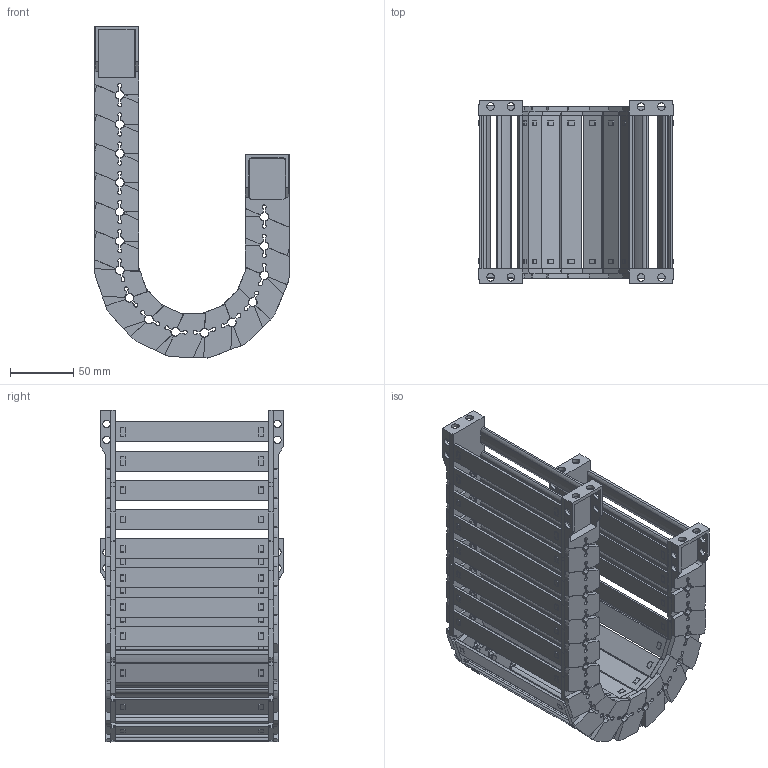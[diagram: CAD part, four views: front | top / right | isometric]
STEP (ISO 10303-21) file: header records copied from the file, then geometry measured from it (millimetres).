
FILE_DESCRIPTION(/* description */ (''),/* implementation_level */ '2;1');
FILE_NAME(/* name */ 'JY28-120-R55.stp',/* time_stamp */ '2026-06-03T16:13:45+08:00',/* author */ (''),/* organization */ (''),/* preprocessor_version */ 'ST-DEVELOPER v19.4',/* originating_system */ 'SIEMENS PLM Software NX2306.5001',/* authorisation */ '');
FILE_SCHEMA (('AP203_CONFIGURATION_CONTROLLED_3D_DESIGN_OF_MECHANICAL_PARTS_AND_ASSEMBLIES_MIM_LF { 1 0 10303 403 2 1 2}'));
Products named in the file (1): 简化图纸_objects
Bounding box: 153.11 x 144.5 x 261.45 mm (x, y, z)
Volume: 425531.9 mm3; surface area: 289754 mm2
Topology: 18 solids, 18 shells, 3920 faces, 10964 edges, 7130 vertices
Faces by surface type: plane 2177, cone 940, cylinder 741, bspline 60, torus 2
Full cylindrical faces by diameter (mm): 6 x24
Entity records: 135289 total; most frequent: CARTESIAN_POINT 33855, ORIENTED_EDGE 21836, DIRECTION 20876, EDGE_CURVE 10918, AXIS2_PLACEMENT_3D 7349, VERTEX_POINT 7108, LINE 6178, VECTOR 6178
